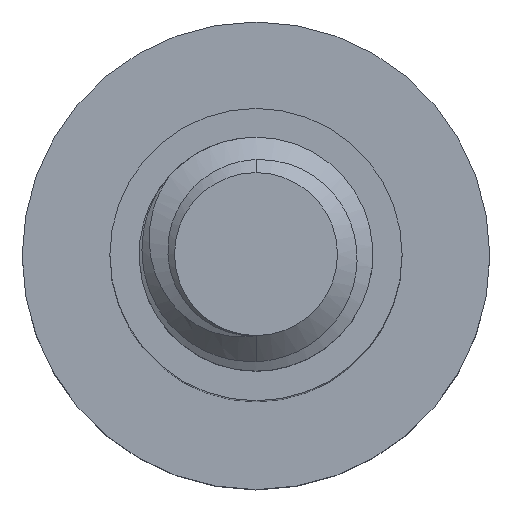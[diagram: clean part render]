
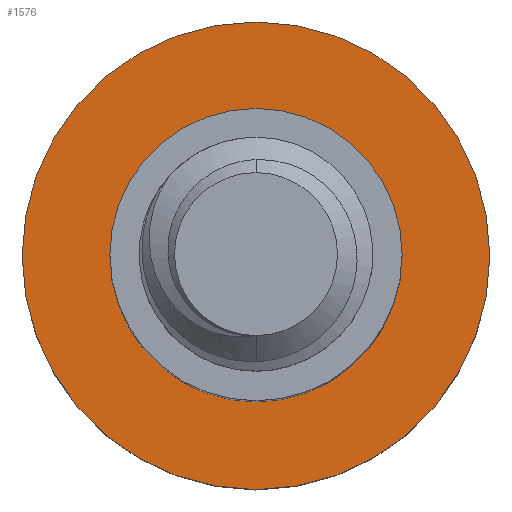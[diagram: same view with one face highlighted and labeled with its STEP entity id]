
A CAD part, top view. The second image highlights one B-rep face of the part: STEP entity #1576.
In plain terms, the highlighted planar face has unit normal (0, 0, 1).
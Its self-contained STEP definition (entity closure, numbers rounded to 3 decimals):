
#51 = VERTEX_POINT ( 'NONE', #872 ) ;
#61 = CARTESIAN_POINT ( 'NONE',  ( -4., 0., -12. ) ) ;
#66 = DIRECTION ( 'NONE',  ( -1., 0., 0. ) ) ;
#72 = CARTESIAN_POINT ( 'NONE',  ( 0., 0., -12. ) ) ;
#94 = DIRECTION ( 'NONE',  ( -1., 0., 0. ) ) ;
#149 = EDGE_CURVE ( 'NONE', #792, #1085, #2065, .T. ) ;
#190 = FACE_OUTER_BOUND ( 'NONE', #753, .T. ) ;
#324 = CARTESIAN_POINT ( 'NONE',  ( 0., 0., -12. ) ) ;
#356 = EDGE_CURVE ( 'NONE', #1647, #51, #1391, .T. ) ;
#367 = DIRECTION ( 'NONE',  ( 0., 0., -1. ) ) ;
#371 = DIRECTION ( 'NONE',  ( -1., 0., 0. ) ) ;
#388 = CARTESIAN_POINT ( 'NONE',  ( 0., 0., -12. ) ) ;
#435 = EDGE_LOOP ( 'NONE', ( #1341, #521 ) ) ;
#521 = ORIENTED_EDGE ( 'NONE', *, *, #1032, .T. ) ;
#537 = DIRECTION ( 'NONE',  ( 0., 0., -1. ) ) ;
#592 = DIRECTION ( 'NONE',  ( 0., 0., -1. ) ) ;
#672 = CIRCLE ( 'NONE', #1078, 4. ) ;
#728 = DIRECTION ( 'NONE',  ( 0., 0., -1. ) ) ;
#753 = EDGE_LOOP ( 'NONE', ( #1318, #1490 ) ) ;
#792 = VERTEX_POINT ( 'NONE', #1955 ) ;
#861 = PLANE ( 'NONE',  #1215 ) ;
#872 = CARTESIAN_POINT ( 'NONE',  ( 2.5, 0., -12. ) ) ;
#955 = DIRECTION ( 'NONE',  ( -1., 0., 0. ) ) ;
#1027 = DIRECTION ( 'NONE',  ( -1., 0., 0. ) ) ;
#1032 = EDGE_CURVE ( 'NONE', #51, #1647, #1679, .T. ) ;
#1078 = AXIS2_PLACEMENT_3D ( 'NONE', #72, #592, #94 ) ;
#1081 = EDGE_CURVE ( 'NONE', #1085, #792, #672, .T. ) ;
#1085 = VERTEX_POINT ( 'NONE', #61 ) ;
#1194 = CARTESIAN_POINT ( 'NONE',  ( 0., 0., -12. ) ) ;
#1215 = AXIS2_PLACEMENT_3D ( 'NONE', #388, #728, #66 ) ;
#1318 = ORIENTED_EDGE ( 'NONE', *, *, #149, .F. ) ;
#1327 = AXIS2_PLACEMENT_3D ( 'NONE', #324, #537, #371 ) ;
#1341 = ORIENTED_EDGE ( 'NONE', *, *, #356, .T. ) ;
#1391 = CIRCLE ( 'NONE', #1995, 2.5 ) ;
#1420 = CARTESIAN_POINT ( 'NONE',  ( -2.5, 0., -12. ) ) ;
#1490 = ORIENTED_EDGE ( 'NONE', *, *, #1081, .F. ) ;
#1576 = ADVANCED_FACE ( 'NONE', ( #1690, #190 ), #861, .F. ) ;
#1597 = DIRECTION ( 'NONE',  ( 0., 0., -1. ) ) ;
#1647 = VERTEX_POINT ( 'NONE', #1420 ) ;
#1679 = CIRCLE ( 'NONE', #2097, 2.5 ) ;
#1690 = FACE_BOUND ( 'NONE', #435, .T. ) ;
#1933 = CARTESIAN_POINT ( 'NONE',  ( 0., 0., -12. ) ) ;
#1955 = CARTESIAN_POINT ( 'NONE',  ( 4., 0., -12. ) ) ;
#1995 = AXIS2_PLACEMENT_3D ( 'NONE', #1933, #1597, #955 ) ;
#2065 = CIRCLE ( 'NONE', #1327, 4. ) ;
#2097 = AXIS2_PLACEMENT_3D ( 'NONE', #1194, #367, #1027 ) ;
